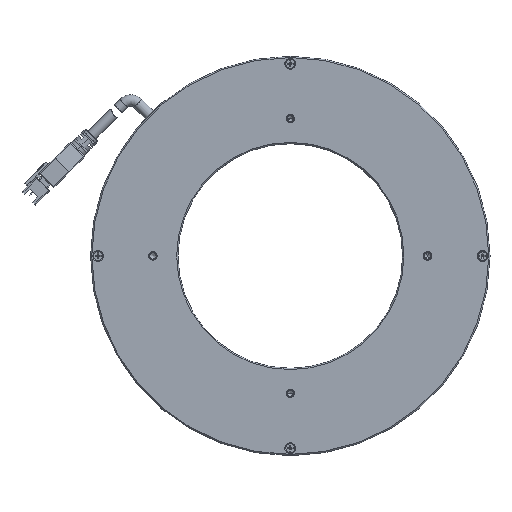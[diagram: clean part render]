
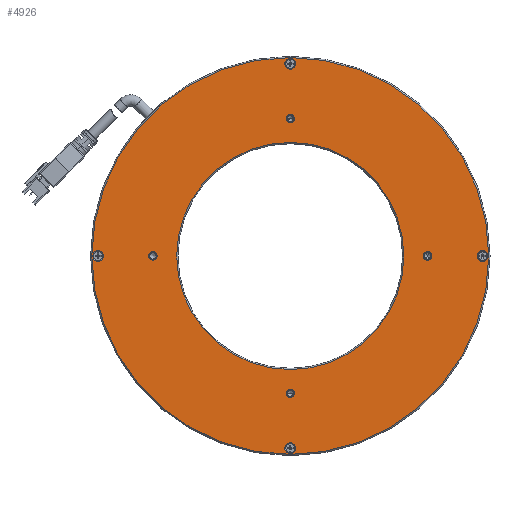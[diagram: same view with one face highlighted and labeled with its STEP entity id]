
A CAD part, top view. The second image highlights one B-rep face of the part: STEP entity #4926.
In plain terms, the highlighted planar face has unit normal (0, 0, 1).
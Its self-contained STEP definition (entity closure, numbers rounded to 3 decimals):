
#417=CARTESIAN_POINT('',(0.,0.,2.));
#418=DIRECTION('',(0.,0.,-1.));
#419=DIRECTION('',(0.,-1.,0.));
#420=AXIS2_PLACEMENT_3D('',#417,#418,#419);
#422=CARTESIAN_POINT('',(0.,0.,2.));
#423=DIRECTION('',(0.,0.,-1.));
#424=DIRECTION('',(0.,1.,0.));
#425=AXIS2_PLACEMENT_3D('',#422,#423,#424);
#427=CARTESIAN_POINT('',(-55.,0.,2.));
#428=DIRECTION('',(0.,0.,-1.));
#429=DIRECTION('',(0.,-1.,0.));
#430=AXIS2_PLACEMENT_3D('',#427,#428,#429);
#432=CARTESIAN_POINT('',(-55.,0.,2.));
#433=DIRECTION('',(0.,0.,-1.));
#434=DIRECTION('',(0.,1.,0.));
#435=AXIS2_PLACEMENT_3D('',#432,#433,#434);
#437=CARTESIAN_POINT('',(0.,-55.,2.));
#438=DIRECTION('',(0.,0.,-1.));
#439=DIRECTION('',(1.,0.,0.));
#440=AXIS2_PLACEMENT_3D('',#437,#438,#439);
#442=CARTESIAN_POINT('',(0.,-55.,2.));
#443=DIRECTION('',(0.,0.,-1.));
#444=DIRECTION('',(-1.,0.,0.));
#445=AXIS2_PLACEMENT_3D('',#442,#443,#444);
#447=CARTESIAN_POINT('',(55.,0.,2.));
#448=DIRECTION('',(0.,0.,-1.));
#449=DIRECTION('',(0.,1.,0.));
#450=AXIS2_PLACEMENT_3D('',#447,#448,#449);
#452=CARTESIAN_POINT('',(55.,0.,2.));
#453=DIRECTION('',(0.,0.,-1.));
#454=DIRECTION('',(0.,-1.,0.));
#455=AXIS2_PLACEMENT_3D('',#452,#453,#454);
#457=CARTESIAN_POINT('',(0.,55.,2.));
#458=DIRECTION('',(0.,0.,-1.));
#459=DIRECTION('',(-1.,0.,0.));
#460=AXIS2_PLACEMENT_3D('',#457,#458,#459);
#462=CARTESIAN_POINT('',(0.,55.,2.));
#463=DIRECTION('',(0.,0.,-1.));
#464=DIRECTION('',(1.,0.,0.));
#465=AXIS2_PLACEMENT_3D('',#462,#463,#464);
#467=CARTESIAN_POINT('',(0.,77.,2.));
#468=DIRECTION('',(0.,0.,-1.));
#469=DIRECTION('',(0.,-1.,0.));
#470=AXIS2_PLACEMENT_3D('',#467,#468,#469);
#472=CARTESIAN_POINT('',(0.,77.,2.));
#473=DIRECTION('',(0.,0.,-1.));
#474=DIRECTION('',(0.,1.,0.));
#475=AXIS2_PLACEMENT_3D('',#472,#473,#474);
#477=CARTESIAN_POINT('',(-77.,0.,2.));
#478=DIRECTION('',(0.,0.,-1.));
#479=DIRECTION('',(1.,0.,0.));
#480=AXIS2_PLACEMENT_3D('',#477,#478,#479);
#482=CARTESIAN_POINT('',(-77.,0.,2.));
#483=DIRECTION('',(0.,0.,-1.));
#484=DIRECTION('',(-1.,0.,0.));
#485=AXIS2_PLACEMENT_3D('',#482,#483,#484);
#487=CARTESIAN_POINT('',(0.,-77.,2.));
#488=DIRECTION('',(0.,0.,-1.));
#489=DIRECTION('',(0.,1.,0.));
#490=AXIS2_PLACEMENT_3D('',#487,#488,#489);
#492=CARTESIAN_POINT('',(0.,-77.,2.));
#493=DIRECTION('',(0.,0.,-1.));
#494=DIRECTION('',(0.,-1.,0.));
#495=AXIS2_PLACEMENT_3D('',#492,#493,#494);
#497=CARTESIAN_POINT('',(77.,0.,2.));
#498=DIRECTION('',(0.,0.,-1.));
#499=DIRECTION('',(-1.,0.,0.));
#500=AXIS2_PLACEMENT_3D('',#497,#498,#499);
#502=CARTESIAN_POINT('',(77.,0.,2.));
#503=DIRECTION('',(0.,0.,-1.));
#504=DIRECTION('',(1.,0.,0.));
#505=AXIS2_PLACEMENT_3D('',#502,#503,#504);
#507=CARTESIAN_POINT('',(0.,0.,2.));
#508=DIRECTION('',(0.,0.,1.));
#509=DIRECTION('',(0.,1.,0.));
#510=AXIS2_PLACEMENT_3D('',#507,#508,#509);
#512=CARTESIAN_POINT('',(0.,0.,2.));
#513=DIRECTION('',(0.,0.,1.));
#514=DIRECTION('',(0.,-1.,0.));
#515=AXIS2_PLACEMENT_3D('',#512,#513,#514);
#3429=CARTESIAN_POINT('',(0.,-79.5,2.));
#3430=CARTESIAN_POINT('',(0.,79.5,2.));
#3431=VERTEX_POINT('',#3429);
#3432=VERTEX_POINT('',#3430);
#3433=CARTESIAN_POINT('',(79.15,0.,2.));
#3434=CARTESIAN_POINT('',(74.85,0.,2.));
#3435=VERTEX_POINT('',#3433);
#3436=VERTEX_POINT('',#3434);
#3437=CARTESIAN_POINT('',(0.,-79.15,2.));
#3438=CARTESIAN_POINT('',(0.,-74.85,2.));
#3439=VERTEX_POINT('',#3437);
#3440=VERTEX_POINT('',#3438);
#3441=CARTESIAN_POINT('',(-79.15,0.,2.));
#3442=CARTESIAN_POINT('',(-74.85,0.,2.));
#3443=VERTEX_POINT('',#3441);
#3444=VERTEX_POINT('',#3442);
#3445=CARTESIAN_POINT('',(0.,79.15,2.));
#3446=CARTESIAN_POINT('',(0.,74.85,2.));
#3447=VERTEX_POINT('',#3445);
#3448=VERTEX_POINT('',#3446);
#3449=CARTESIAN_POINT('',(1.7,55.,2.));
#3450=CARTESIAN_POINT('',(-1.7,55.,2.));
#3451=VERTEX_POINT('',#3449);
#3452=VERTEX_POINT('',#3450);
#3453=CARTESIAN_POINT('',(55.,-1.7,2.));
#3454=CARTESIAN_POINT('',(55.,1.7,2.));
#3455=VERTEX_POINT('',#3453);
#3456=VERTEX_POINT('',#3454);
#3457=CARTESIAN_POINT('',(-1.7,-55.,2.));
#3458=CARTESIAN_POINT('',(1.7,-55.,2.));
#3459=VERTEX_POINT('',#3457);
#3460=VERTEX_POINT('',#3458);
#3461=CARTESIAN_POINT('',(-55.,1.7,2.));
#3462=CARTESIAN_POINT('',(-55.,-1.7,2.));
#3463=VERTEX_POINT('',#3461);
#3464=VERTEX_POINT('',#3462);
#3465=CARTESIAN_POINT('',(0.,45.5,2.));
#3466=CARTESIAN_POINT('',(0.,-45.5,2.));
#3467=VERTEX_POINT('',#3465);
#3468=VERTEX_POINT('',#3466);
#4863=CARTESIAN_POINT('',(0.,0.,2.));
#4864=DIRECTION('',(0.,0.,-1.));
#4865=DIRECTION('',(0.,-1.,0.));
#4866=AXIS2_PLACEMENT_3D('',#4863,#4864,#4865);
#4867=PLANE('',#4866);
#4869=ORIENTED_EDGE('',*,*,#4868,.F.);
#4871=ORIENTED_EDGE('',*,*,#4870,.F.);
#4872=EDGE_LOOP('',(#4869,#4871));
#4873=FACE_OUTER_BOUND('',#4872,.F.);
#4875=ORIENTED_EDGE('',*,*,#4874,.F.);
#4877=ORIENTED_EDGE('',*,*,#4876,.F.);
#4878=EDGE_LOOP('',(#4875,#4877));
#4879=FACE_BOUND('',#4878,.F.);
#4881=ORIENTED_EDGE('',*,*,#4880,.F.);
#4883=ORIENTED_EDGE('',*,*,#4882,.F.);
#4884=EDGE_LOOP('',(#4881,#4883));
#4885=FACE_BOUND('',#4884,.F.);
#4887=ORIENTED_EDGE('',*,*,#4886,.F.);
#4889=ORIENTED_EDGE('',*,*,#4888,.F.);
#4890=EDGE_LOOP('',(#4887,#4889));
#4891=FACE_BOUND('',#4890,.F.);
#4893=ORIENTED_EDGE('',*,*,#4892,.F.);
#4895=ORIENTED_EDGE('',*,*,#4894,.F.);
#4896=EDGE_LOOP('',(#4893,#4895));
#4897=FACE_BOUND('',#4896,.F.);
#4899=ORIENTED_EDGE('',*,*,#4898,.F.);
#4901=ORIENTED_EDGE('',*,*,#4900,.F.);
#4902=EDGE_LOOP('',(#4899,#4901));
#4903=FACE_BOUND('',#4902,.F.);
#4905=ORIENTED_EDGE('',*,*,#4904,.F.);
#4907=ORIENTED_EDGE('',*,*,#4906,.F.);
#4908=EDGE_LOOP('',(#4905,#4907));
#4909=FACE_BOUND('',#4908,.F.);
#4911=ORIENTED_EDGE('',*,*,#4910,.F.);
#4913=ORIENTED_EDGE('',*,*,#4912,.F.);
#4914=EDGE_LOOP('',(#4911,#4913));
#4915=FACE_BOUND('',#4914,.F.);
#4917=ORIENTED_EDGE('',*,*,#4916,.F.);
#4919=ORIENTED_EDGE('',*,*,#4918,.F.);
#4920=EDGE_LOOP('',(#4917,#4919));
#4921=FACE_BOUND('',#4920,.F.);
#4922=ORIENTED_EDGE('',*,*,#4856,.F.);
#4923=ORIENTED_EDGE('',*,*,#4842,.F.);
#4924=EDGE_LOOP('',(#4922,#4923));
#4925=FACE_BOUND('',#4924,.F.);
#4926=ADVANCED_FACE('',(#4873,#4879,#4885,#4891,#4897,#4903,#4909,#4915,#4921,
#4925),#4867,.F.);
#421=CIRCLE('',#420,45.5);
#426=CIRCLE('',#425,45.5);
#431=CIRCLE('',#430,1.7);
#436=CIRCLE('',#435,1.7);
#441=CIRCLE('',#440,1.7);
#446=CIRCLE('',#445,1.7);
#451=CIRCLE('',#450,1.7);
#456=CIRCLE('',#455,1.7);
#461=CIRCLE('',#460,1.7);
#466=CIRCLE('',#465,1.7);
#471=CIRCLE('',#470,2.15);
#476=CIRCLE('',#475,2.15);
#481=CIRCLE('',#480,2.15);
#486=CIRCLE('',#485,2.15);
#491=CIRCLE('',#490,2.15);
#496=CIRCLE('',#495,2.15);
#501=CIRCLE('',#500,2.15);
#506=CIRCLE('',#505,2.15);
#511=CIRCLE('',#510,79.5);
#516=CIRCLE('',#515,79.5);
#4842=EDGE_CURVE('',#3467,#3468,#426,.T.);
#4856=EDGE_CURVE('',#3468,#3467,#421,.T.);
#4868=EDGE_CURVE('',#3432,#3431,#511,.T.);
#4870=EDGE_CURVE('',#3431,#3432,#516,.T.);
#4874=EDGE_CURVE('',#3464,#3463,#431,.T.);
#4876=EDGE_CURVE('',#3463,#3464,#436,.T.);
#4880=EDGE_CURVE('',#3460,#3459,#441,.T.);
#4882=EDGE_CURVE('',#3459,#3460,#446,.T.);
#4886=EDGE_CURVE('',#3456,#3455,#451,.T.);
#4888=EDGE_CURVE('',#3455,#3456,#456,.T.);
#4892=EDGE_CURVE('',#3452,#3451,#461,.T.);
#4894=EDGE_CURVE('',#3451,#3452,#466,.T.);
#4898=EDGE_CURVE('',#3448,#3447,#471,.T.);
#4900=EDGE_CURVE('',#3447,#3448,#476,.T.);
#4904=EDGE_CURVE('',#3444,#3443,#481,.T.);
#4906=EDGE_CURVE('',#3443,#3444,#486,.T.);
#4910=EDGE_CURVE('',#3440,#3439,#491,.T.);
#4912=EDGE_CURVE('',#3439,#3440,#496,.T.);
#4916=EDGE_CURVE('',#3436,#3435,#501,.T.);
#4918=EDGE_CURVE('',#3435,#3436,#506,.T.);
